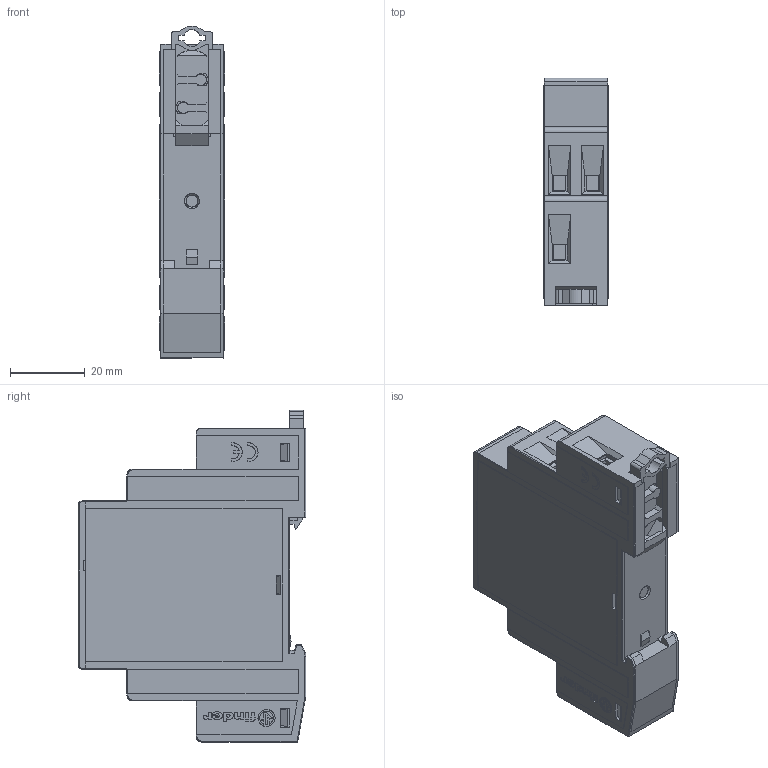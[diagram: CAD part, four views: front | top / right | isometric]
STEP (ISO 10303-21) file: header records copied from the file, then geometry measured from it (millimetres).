
FILE_DESCRIPTION(('STEP AP214'),'2;1');
FILE_NAME('14_91---catalogo_OK.stp','2011-02-17T11:31:45',(''),(''),'2007.1.106','THINKDESIGN','');
FILE_SCHEMA(('AUTOMOTIVE_DESIGN'));
Products named in the file (1): None
Bounding box: 17.5 x 60.8 x 88.85 mm (x, y, z)
Surface area: 17702.7 mm2 (no closed solid volume)
Topology: 0 solids, 0 shells, 893 faces, 5317 edges, 5302 vertices
Faces by surface type: plane 698, cylinder 108, bspline 87
Full cylindrical faces by diameter (mm): 3 x5, 5 x4
Entity records: 54538 total; most frequent: CARTESIAN_POINT 16652, DIRECTION 6530, COMPOSITE_CURVE_SEGMENT 5317, TRIMMED_CURVE 4701, VECTOR 4512, LINE 4512, AXIS2_PLACEMENT_3D 1009, OUTER_BOUNDARY_CURVE 893
